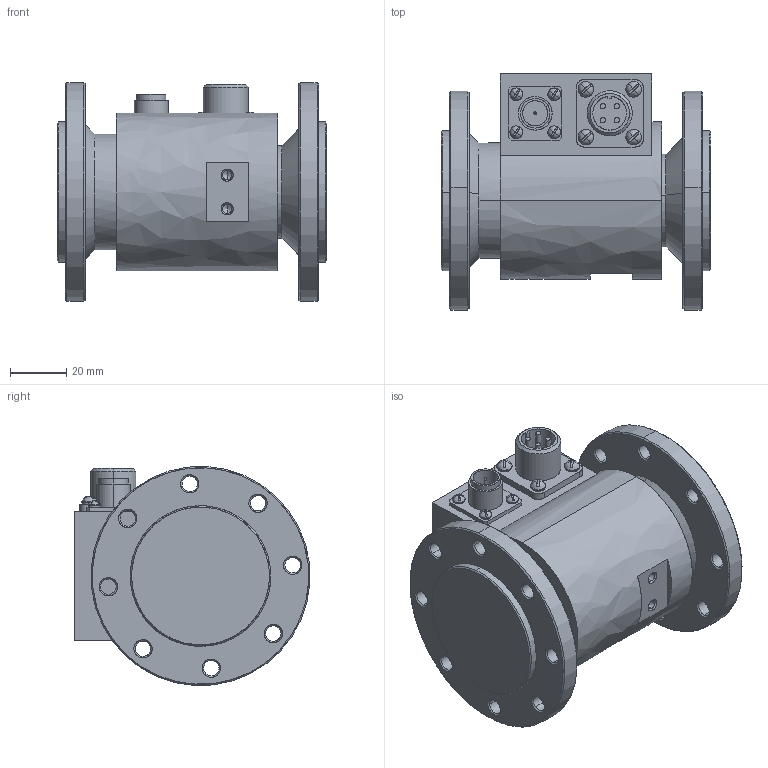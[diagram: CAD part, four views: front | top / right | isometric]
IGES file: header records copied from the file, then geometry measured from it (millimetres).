
Start section: SolidWorks IGES file using analytic representation for surfaces
Global section: file name: D:\ERMAK\WORK\M20C\M20C-100\3D\M20C-100.IGS; native system: SolidWorks 2019; preprocessor: SolidWorks 2019; author: Admin; date: 211001.110934; units: millimetre
Bounding box: 96 x 83.93 x 77.87 mm (x, y, z)
Surface area: 47033.5 mm2 (no closed solid volume)
Topology: 0 solids, 0 shells, 398 faces, 7642 edges, 7638 vertices
Faces by surface type: revolution 277, bspline 121
